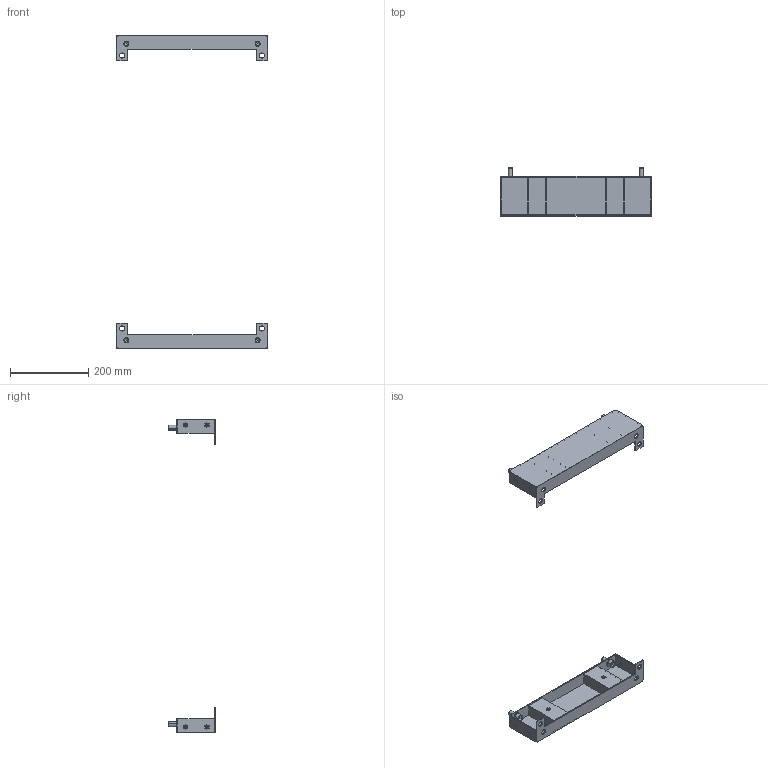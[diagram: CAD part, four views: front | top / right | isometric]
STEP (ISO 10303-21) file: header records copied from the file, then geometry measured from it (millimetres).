
FILE_DESCRIPTION (( 'STEP AP203' ), '1' );
FILE_NAME ('R6PLB45 H=800.STEP', '2025-05-16T11:41:03', ( '' ), ( '' ), 'SwSTEP 2.0', 'SolidWorks 2022', '' );
FILE_SCHEMA (( 'CONFIG_CONTROL_DESIGN' ));
Length unit declared in the file: millimetre
Products named in the file (8): RB.3309.00.00.0 СБ simple_-03; M6 MGS-MPO-0635_straight; RB.3309.00.01.0 simple_-03; R6PLB45 H=800; M12x25 DIN 912 HX cl.8,8 Zinc_stright; 12 DIN 6798 A Zinc; M6 MGS-MPO-0635_thread; RB.3309.00.02.0 simple
Assembly tree (19 placements, depth 3):
  R6PLB45 H=800
    RB.3309.00.00.0 СБ simple_-03  x2
      RB.3309.00.01.0 simple_-03
      M6 MGS-MPO-0635_thread
      RB.3309.00.02.0 simple
      M6 MGS-MPO-0635_straight
    12 DIN 6798 A Zinc  x4
    M12x25 DIN 912 HX cl.8,8 Zinc_stright  x4
Bounding box: 386.7 x 121.5 x 800 mm (x, y, z)
Volume: 476550.8 mm3; surface area: 394025.4 mm2
Topology: 26 solids, 26 shells, 1568 faces, 4128 edges, 2388 vertices
Faces by surface type: plane 640, cylinder 544, bspline 168, sphere 144, cone 40, torus 32
Entity records: 15002 total; most frequent: CARTESIAN_POINT 5755, ORIENTED_EDGE 1768, DIRECTION 1539, EDGE_CURVE 884, VERTEX_POINT 558, VECTOR 533, LINE 533, AXIS2_PLACEMENT_3D 503
